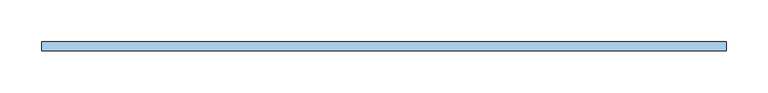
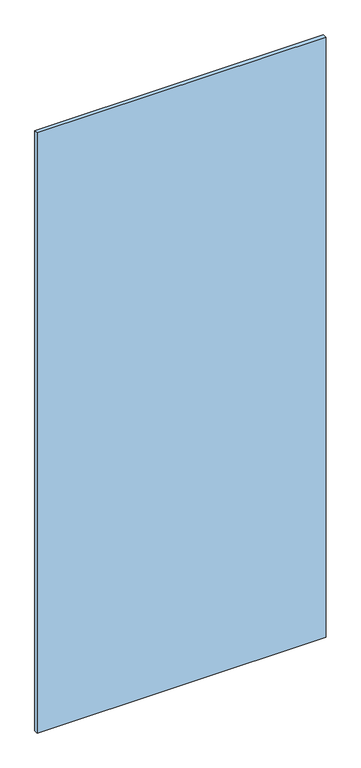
"""IFC4 building model written with IfcOpenShell, lengths in millimetres: window geometry, Baño 1 Hueco lateral : CA-5b-cancel baño-1.455."""

from ifc_helpers import new_model, si_unit, origin, origin_with_axes, place, context, project, spatial, polyline, outline, extrude, source, transform, mapped, element, save


def window_d7b9bfa8(model_context):
    return source(origin(), model_context, "Body", "SweptSolid", [
        extrude(outline(polyline([(-735.0, -5.5), (-735.0, 5.5), (85.0, 5.5), (85.0, -5.5), (-735.0, -5.5)])), origin_with_axes(), (0.0, 0.0, 1.0), 1800.0),
    ])


if __name__ == "__main__":
    model = new_model("IFC4")
    model_context = context("Model", 3, world=origin())
    ifc_project = project(units=[si_unit("LENGTHUNIT", "METRE", prefix="MILLI")], contexts=[model_context])
    site = spatial("IfcSite", under=ifc_project)
    building = spatial("IfcBuilding", under=site)
    placement = place(None, origin())
    window_shape = window_d7b9bfa8(model_context)
    element("IfcWindow", 1, ObjectType="Baño 1 Hueco lateral : CA-5b-cancel baño-1.455", at=placement, inside=building, context=model_context, shape_type="MappedRepresentation", body=[
        mapped(window_shape, transform((0.0, 0.0, 0.0), x_axis=(1.0, 0.0, 0.0), y_axis=(0.0, 1.0, 0.0), z_axis=(0.0, 0.0, 1.0))),
    ])
    save(model, "model.ifc")
